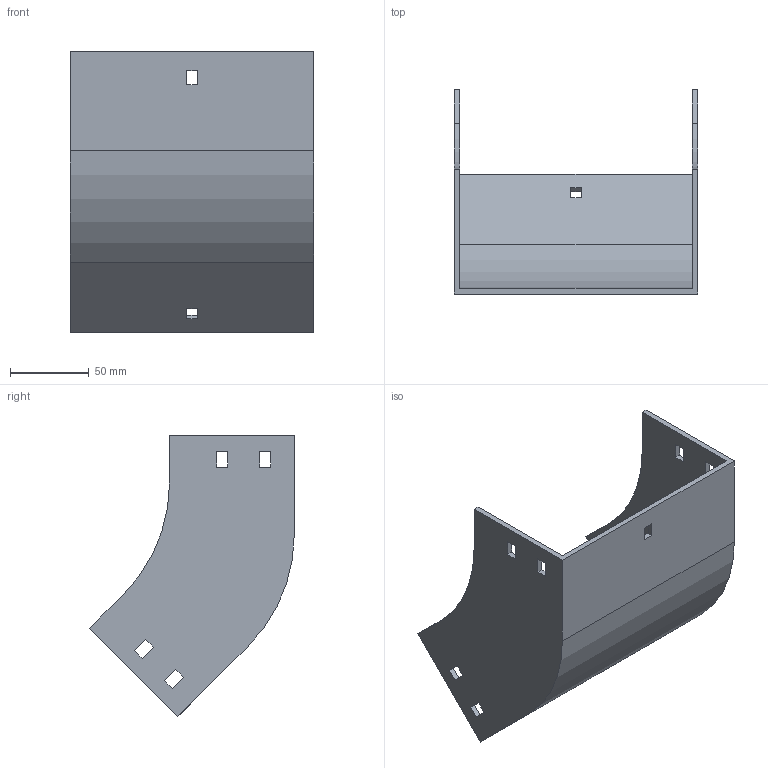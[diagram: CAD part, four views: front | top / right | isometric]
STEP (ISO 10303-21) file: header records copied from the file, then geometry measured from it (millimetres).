
FILE_DESCRIPTION (( 'STEP AP214' ), '1' );
FILE_NAME ('31F1C150.step', '2025-02-21T13:00:37', ( '' ), ( '' ), 'SwSTEP 2.0', 'SolidWorks 2023', '' );
FILE_SCHEMA (( 'AUTOMOTIVE_DESIGN' ));
Length unit declared in the file: millimetre
Products named in the file (1): 31F1C150
Bounding box: 154 x 129.5 x 177.79 mm (x, y, z)
Volume: 198961.7 mm3; surface area: 117975.8 mm2
Topology: 1 solids, 1 shells, 58 faces, 168 edges, 112 vertices
Faces by surface type: plane 54, cylinder 4
Entity records: 1943 total; most frequent: CARTESIAN_POINT 339, ORIENTED_EDGE 336, DIRECTION 294, EDGE_CURVE 168, LINE 160, VECTOR 160, VERTEX_POINT 112, EDGE_LOOP 78
